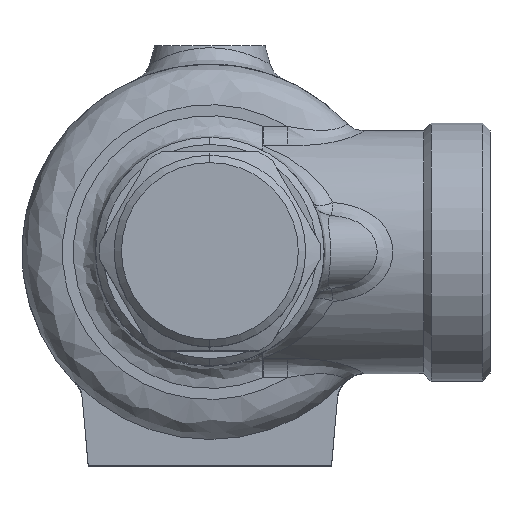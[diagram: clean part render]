
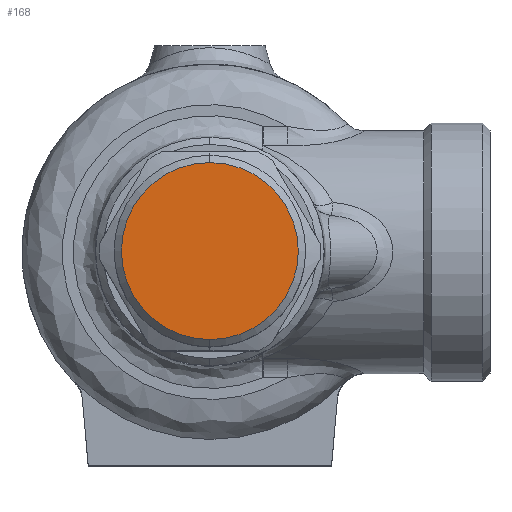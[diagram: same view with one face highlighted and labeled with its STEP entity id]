
A CAD part, top view. The second image highlights one B-rep face of the part: STEP entity #168.
In plain terms, the highlighted planar face has unit normal (0, 0, 1) as drawn and (0, 1, 0) by its records, which use the part's own axes.
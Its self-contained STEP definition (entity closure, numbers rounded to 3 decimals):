
#168=ADVANCED_FACE('',(#1142),#1141,.T.);
#1141=PLANE('',#3184);
#1142=FACE_OUTER_BOUND('',#3185,.T.);
#3181=CARTESIAN_POINT('',(-24.942,85.,-27.6));
#3182=DIRECTION('',(0.,1.,0.));
#3183=DIRECTION('',(0.,0.,1.));
#3184=AXIS2_PLACEMENT_3D('',#3181,#3182,#3183);
#3185=EDGE_LOOP('',(#3912,#3913));
#3912=ORIENTED_EDGE('',*,*,#4393,.T.);
#3913=ORIENTED_EDGE('',*,*,#4394,.T.);
#4393=EDGE_CURVE('',#6133,#6134,#6135,.T.);
#4394=EDGE_CURVE('',#6134,#6133,#6141,.T.);
#6133=VERTEX_POINT('',#8295);
#6134=VERTEX_POINT('',#8296);
#6135=CIRCLE('',#8300,12.);
#6141=CIRCLE('',#8304,12.);
#8295=CARTESIAN_POINT('',(0.,85.,12.));
#8296=CARTESIAN_POINT('',(0.,85.,-12.));
#8297=CARTESIAN_POINT('',(0.,85.,0.));
#8298=DIRECTION('',(0.,1.,0.));
#8299=DIRECTION('',(0.,0.,1.));
#8300=AXIS2_PLACEMENT_3D('',#8297,#8298,#8299);
#8301=CARTESIAN_POINT('',(0.,85.,0.));
#8302=DIRECTION('',(0.,1.,0.));
#8303=DIRECTION('',(0.,0.,1.));
#8304=AXIS2_PLACEMENT_3D('',#8301,#8302,#8303);
